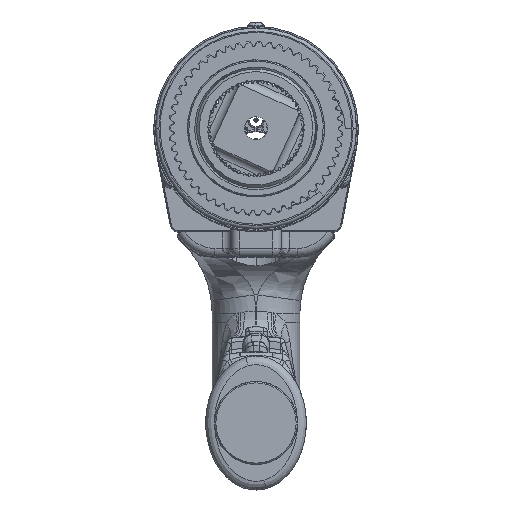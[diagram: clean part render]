
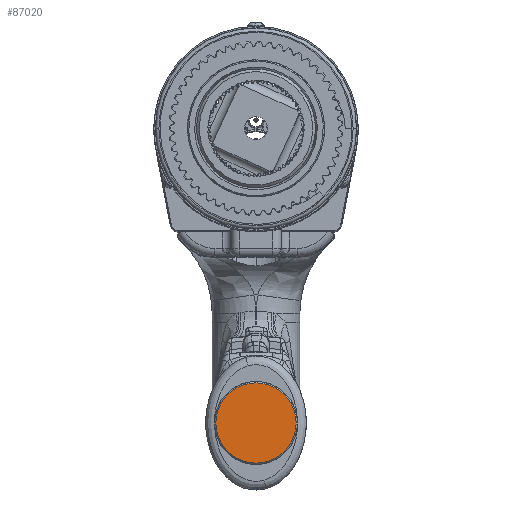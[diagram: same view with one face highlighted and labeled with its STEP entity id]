
A CAD part, top view. The second image highlights one B-rep face of the part: STEP entity #87020.
In plain terms, the highlighted planar face has unit normal (0, 0, 1).
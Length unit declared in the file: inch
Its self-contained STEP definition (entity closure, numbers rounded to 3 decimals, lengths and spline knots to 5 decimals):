
#3979 = DIRECTION ( 'NONE',  ( 0., 0., 1. ) ) ;
#4923 = CARTESIAN_POINT ( 'NONE',  ( -0.5995, -4.38938, 2.05527 ) ) ;
#6003 = VERTEX_POINT ( 'NONE', #4923 ) ;
#25276 = CARTESIAN_POINT ( 'NONE',  ( 0.5995, -4.38938, 2.05527 ) ) ;
#28287 = EDGE_LOOP ( 'NONE', ( #111274, #112616 ) ) ;
#28565 = DIRECTION ( 'NONE',  ( 0., 0., 1. ) ) ;
#45270 = CARTESIAN_POINT ( 'NONE',  ( 0., -4.38938, 2.05527 ) ) ;
#57223 = DIRECTION ( 'NONE',  ( 1., 0., 0. ) ) ;
#57946 = CIRCLE ( 'NONE', #110699, 0.5995 ) ;
#68508 = PLANE ( 'NONE',  #76223 ) ;
#74859 = CARTESIAN_POINT ( 'NONE',  ( 0., -4.38938, 2.05527 ) ) ;
#76223 = AXIS2_PLACEMENT_3D ( 'NONE', #45270, #127752, #57223 ) ;
#86638 = DIRECTION ( 'NONE',  ( 1., 0., 0. ) ) ;
#87020 = ADVANCED_FACE ( 'NONE', ( #89730 ), #68508, .T. ) ;
#89714 = AXIS2_PLACEMENT_3D ( 'NONE', #74859, #3979, #86638 ) ;
#89730 = FACE_OUTER_BOUND ( 'NONE', #28287, .T. ) ;
#99109 = CARTESIAN_POINT ( 'NONE',  ( 0., -4.38938, 2.05527 ) ) ;
#105949 = CIRCLE ( 'NONE', #89714, 0.5995 ) ;
#110699 = AXIS2_PLACEMENT_3D ( 'NONE', #99109, #28565, #111007 ) ;
#111007 = DIRECTION ( 'NONE',  ( 1., 0., 0. ) ) ;
#111274 = ORIENTED_EDGE ( 'NONE', *, *, #134841, .T. ) ;
#112616 = ORIENTED_EDGE ( 'NONE', *, *, #121809, .T. ) ;
#121809 = EDGE_CURVE ( 'NONE', #152595, #6003, #105949, .T. ) ;
#127752 = DIRECTION ( 'NONE',  ( 0., 0., 1. ) ) ;
#134841 = EDGE_CURVE ( 'NONE', #6003, #152595, #57946, .T. ) ;
#152595 = VERTEX_POINT ( 'NONE', #25276 ) ;
